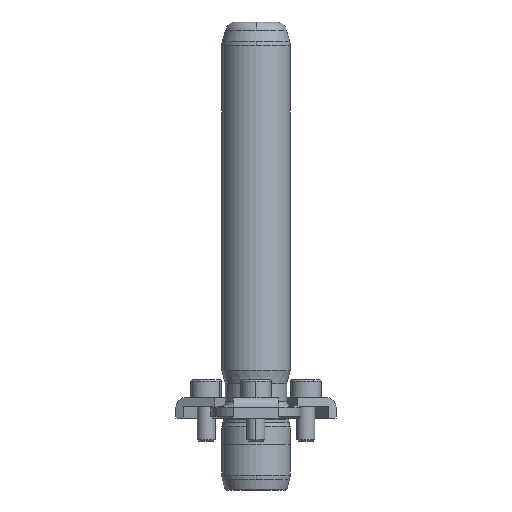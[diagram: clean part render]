
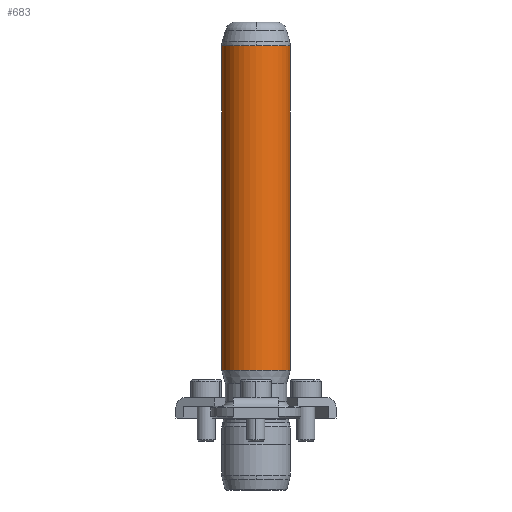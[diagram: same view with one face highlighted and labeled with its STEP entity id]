
A CAD part, front view. The second image highlights one B-rep face of the part: STEP entity #683.
In plain terms, the highlighted cylindrical face has radius 9.5 mm (diameter 19 mm), a partial arc.
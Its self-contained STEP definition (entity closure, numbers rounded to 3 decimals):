
#596=CARTESIAN_POINT('',(0.0,-9.5,103.342));
#597=VERTEX_POINT('',#596);
#624=CARTESIAN_POINT('',(-9.5,0.,103.342));
#625=VERTEX_POINT('',#624);
#633=CARTESIAN_POINT('',(0.0,0.,103.342));
#634=DIRECTION('',(0.0,0.0,1.0));
#635=DIRECTION('',(1.0,0.0,0.0));
#636=AXIS2_PLACEMENT_3D('',#633,#634,#635);
#637=CIRCLE('',#636,9.5);
#638=EDGE_CURVE('',#625,#597,#637,.T.);
#643=CARTESIAN_POINT('',(0.0,0.,58.321));
#644=DIRECTION('',(0.0,0.,1.0));
#645=DIRECTION('',(1.0,0.0,0.0));
#646=AXIS2_PLACEMENT_3D('',#643,#644,#645);
#647=CYLINDRICAL_SURFACE('',#646,9.5);
#648=CARTESIAN_POINT('',(9.5,0.,103.342));
#649=VERTEX_POINT('',#648);
#650=CARTESIAN_POINT('',(9.5,0.,13.3));
#651=VERTEX_POINT('',#650);
#652=CARTESIAN_POINT('',(9.5,0.,103.342));
#653=DIRECTION('',(0.0,0.0,-1.0));
#654=VECTOR('',#653,90.042);
#655=LINE('',#652,#654);
#656=EDGE_CURVE('',#649,#651,#655,.T.);
#657=ORIENTED_EDGE('',*,*,#656,.F.);
#658=CARTESIAN_POINT('',(0.0,0.,103.342));
#659=DIRECTION('',(0.0,0.0,1.0));
#660=DIRECTION('',(1.0,0.0,0.0));
#661=AXIS2_PLACEMENT_3D('',#658,#659,#660);
#662=CIRCLE('',#661,9.5);
#663=EDGE_CURVE('',#597,#649,#662,.T.);
#664=ORIENTED_EDGE('',*,*,#663,.F.);
#665=ORIENTED_EDGE('',*,*,#638,.F.);
#666=CARTESIAN_POINT('',(-9.5,0.,13.3));
#667=VERTEX_POINT('',#666);
#668=CARTESIAN_POINT('',(-9.5,0.,103.342));
#669=DIRECTION('',(0.0,0.0,-1.0));
#670=VECTOR('',#669,90.042);
#671=LINE('',#668,#670);
#672=EDGE_CURVE('',#625,#667,#671,.T.);
#673=ORIENTED_EDGE('',*,*,#672,.T.);
#674=CARTESIAN_POINT('',(0.0,0.,13.3));
#675=DIRECTION('',(0.0,0.0,1.0));
#676=DIRECTION('',(1.0,0.0,0.0));
#677=AXIS2_PLACEMENT_3D('',#674,#675,#676);
#678=CIRCLE('',#677,9.5);
#679=EDGE_CURVE('',#667,#651,#678,.T.);
#680=ORIENTED_EDGE('',*,*,#679,.T.);
#681=EDGE_LOOP('',(#657,#664,#665,#673,#680));
#682=FACE_OUTER_BOUND('',#681,.T.);
#683=ADVANCED_FACE('',(#682),#647,.T.);
